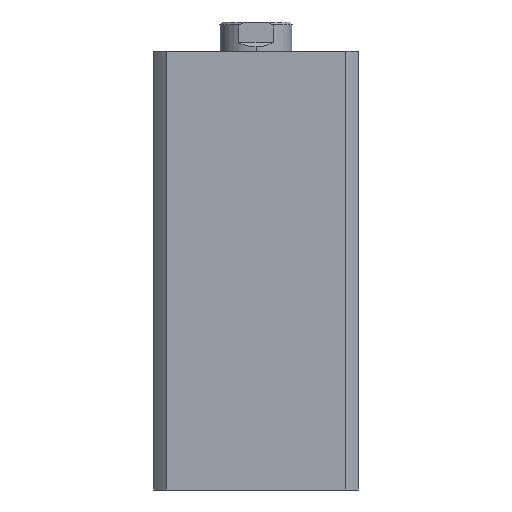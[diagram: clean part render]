
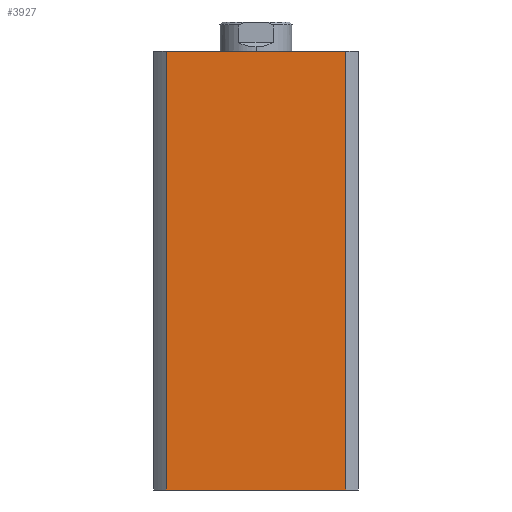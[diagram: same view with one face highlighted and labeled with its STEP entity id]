
A CAD part, left-side view. The second image highlights one B-rep face of the part: STEP entity #3927.
In plain terms, the highlighted planar face has unit normal (-1, 0, 0).
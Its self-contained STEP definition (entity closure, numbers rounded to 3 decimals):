
#417 = EDGE_CURVE ( 'NONE', #3498, #3527, #2493, .T. ) ;
#568 = EDGE_CURVE ( 'NONE', #3442, #3443, #2988, .T. ) ;
#569 = EDGE_CURVE ( 'NONE', #3443, #3527, #2986, .T. ) ;
#571 = EDGE_CURVE ( 'NONE', #3442, #3498, #2982, .T. ) ;
#666 = CARTESIAN_POINT ( 'NONE',  ( -35., 0., 150. ) ) ;
#671 = PLANE ( 'NONE',  #2591 ) ;
#674 = DIRECTION ( 'NONE',  ( 1., 0., 0. ) ) ;
#675 = DIRECTION ( 'NONE',  ( 0., 1., 0. ) ) ;
#1378 = EDGE_LOOP ( 'NONE', ( #5055, #5054, #5053, #5052 ) ) ;
#1907 = CARTESIAN_POINT ( 'NONE',  ( -35., 30.615, 150. ) ) ;
#1908 = CARTESIAN_POINT ( 'NONE',  ( -35., -30.615, 150. ) ) ;
#1962 = CARTESIAN_POINT ( 'NONE',  ( -35., 30.615, 0. ) ) ;
#2227 = DIRECTION ( 'NONE',  ( 0., 0., -1. ) ) ;
#2245 = CARTESIAN_POINT ( 'NONE',  ( -35., -30.615, 150. ) ) ;
#2246 = DIRECTION ( 'NONE',  ( 0., -1., 0. ) ) ;
#2247 = CARTESIAN_POINT ( 'NONE',  ( -35., 0., 150. ) ) ;
#2453 = VECTOR ( 'NONE', #3206, 1000. ) ;
#2493 = LINE ( 'NONE', #3396, #2453 ) ;
#2591 = AXIS2_PLACEMENT_3D ( 'NONE', #666, #674, #675 ) ;
#2980 = VECTOR ( 'NONE', #3772, 1000. ) ;
#2982 = LINE ( 'NONE', #3770, #2980 ) ;
#2983 = VECTOR ( 'NONE', #2227, 1000. ) ;
#2985 = VECTOR ( 'NONE', #2246, 1000. ) ;
#2986 = LINE ( 'NONE', #2245, #2983 ) ;
#2988 = LINE ( 'NONE', #2247, #2985 ) ;
#3206 = DIRECTION ( 'NONE',  ( 0., -1., 0. ) ) ;
#3396 = CARTESIAN_POINT ( 'NONE',  ( -35., 0., 0. ) ) ;
#3442 = VERTEX_POINT ( 'NONE', #1907 ) ;
#3443 = VERTEX_POINT ( 'NONE', #1908 ) ;
#3498 = VERTEX_POINT ( 'NONE', #1962 ) ;
#3527 = VERTEX_POINT ( 'NONE', #4110 ) ;
#3770 = CARTESIAN_POINT ( 'NONE',  ( -35., 30.615, 150. ) ) ;
#3772 = DIRECTION ( 'NONE',  ( 0., 0., -1. ) ) ;
#3927 = ADVANCED_FACE ( 'NONE', ( #4025 ), #671, .F. ) ;
#4025 = FACE_OUTER_BOUND ( 'NONE', #1378, .T. ) ;
#4110 = CARTESIAN_POINT ( 'NONE',  ( -35., -30.615, 0. ) ) ;
#5052 = ORIENTED_EDGE ( 'NONE', *, *, #571, .T. ) ;
#5053 = ORIENTED_EDGE ( 'NONE', *, *, #568, .F. ) ;
#5054 = ORIENTED_EDGE ( 'NONE', *, *, #569, .F. ) ;
#5055 = ORIENTED_EDGE ( 'NONE', *, *, #417, .T. ) ;
